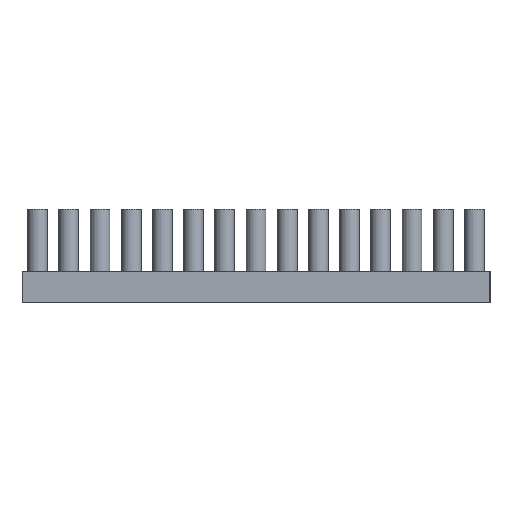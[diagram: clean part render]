
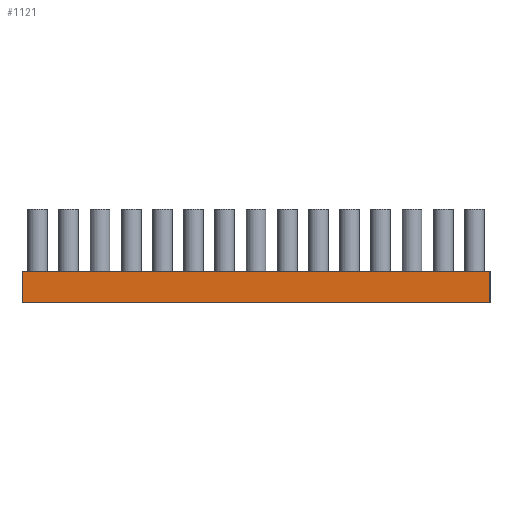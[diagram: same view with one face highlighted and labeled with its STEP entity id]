
A CAD part, left-side view. The second image highlights one B-rep face of the part: STEP entity #1121.
In plain terms, the highlighted planar face has unit normal (-1, 0, 0).
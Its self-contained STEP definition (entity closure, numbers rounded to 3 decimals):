
#350=FACE_OUTER_BOUND('',#3684,.T.);
#1121=ADVANCED_FACE('',(#350),#1382,.F.);
#1382=PLANE('',#6819);
#3684=EDGE_LOOP('',(#4713,#4714,#4715,#4716));
#4713=ORIENTED_EDGE('',*,*,#5251,.T.);
#4714=ORIENTED_EDGE('',*,*,#5765,.F.);
#4715=ORIENTED_EDGE('',*,*,#5766,.T.);
#4716=ORIENTED_EDGE('',*,*,#5767,.T.);
#4733=VERTEX_POINT('',#8892);
#4734=VERTEX_POINT('',#8893);
#5247=VERTEX_POINT('',#10431);
#5248=VERTEX_POINT('',#10433);
#5251=EDGE_CURVE('',#4733,#4734,#5773,.T.);
#5765=EDGE_CURVE('',#5247,#4734,#5777,.T.);
#5766=EDGE_CURVE('',#5247,#5248,#5778,.T.);
#5767=EDGE_CURVE('',#5248,#4733,#5779,.T.);
#5773=LINE('',#8891,#5785);
#5777=LINE('',#10430,#5789);
#5778=LINE('',#10432,#5790);
#5779=LINE('',#10434,#5791);
#5785=VECTOR('',#6826,1.);
#5789=VECTOR('',#8872,1.);
#5790=VECTOR('',#8873,1.);
#5791=VECTOR('',#8874,1.);
#6819=AXIS2_PLACEMENT_3D('',#10435,#8875,#8876);
#6826=DIRECTION('',(0.,1.,0.));
#8872=DIRECTION('',(0.,0.,1.));
#8873=DIRECTION('',(0.,-1.,0.));
#8874=DIRECTION('',(0.,0.,1.));
#8875=DIRECTION('',(1.,0.,0.));
#8876=DIRECTION('',(0.,0.,-1.));
#8891=CARTESIAN_POINT('',(-47.1,-66.05,15.));
#8892=CARTESIAN_POINT('',(-47.1,-34.5,15.));
#8893=CARTESIAN_POINT('',(-47.1,40.5,15.));
#10430=CARTESIAN_POINT('',(-47.1,40.5,45.));
#10431=CARTESIAN_POINT('',(-47.1,40.5,10.));
#10432=CARTESIAN_POINT('',(-47.1,40.5,10.));
#10433=CARTESIAN_POINT('',(-47.1,-34.5,10.));
#10434=CARTESIAN_POINT('',(-47.1,-34.5,45.));
#10435=CARTESIAN_POINT('',(-47.1,40.5,45.));
